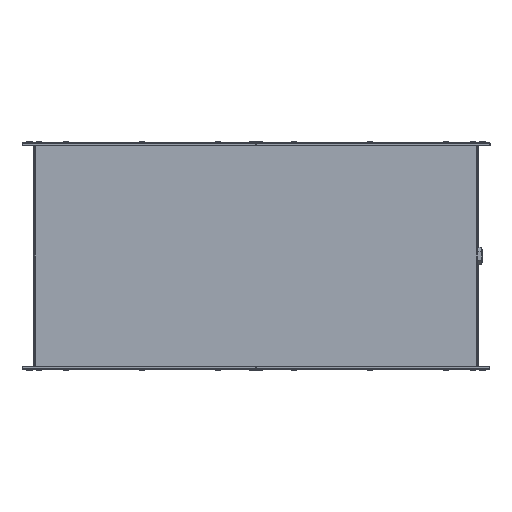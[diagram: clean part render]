
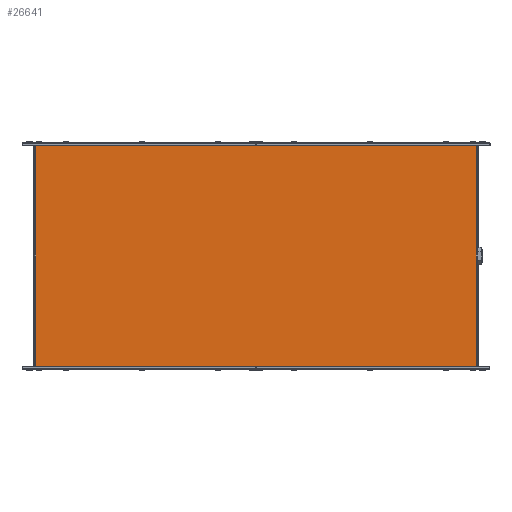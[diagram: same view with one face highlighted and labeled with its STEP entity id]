
A CAD part, front view. The second image highlights one B-rep face of the part: STEP entity #26641.
In plain terms, the highlighted planar face has unit normal (0, -1, 0).
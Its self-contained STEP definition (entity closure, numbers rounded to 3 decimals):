
#3066 = AXIS2_PLACEMENT_3D ( 'NONE', #31112, #31121, #31122 ) ;
#3339 = ORIENTED_EDGE ( 'NONE', *, *, #12150, .T. ) ;
#3340 = ORIENTED_EDGE ( 'NONE', *, *, #12181, .T. ) ;
#3343 = ORIENTED_EDGE ( 'NONE', *, *, #12123, .T. ) ;
#3345 = ORIENTED_EDGE ( 'NONE', *, *, #12187, .T. ) ;
#7400 = FACE_OUTER_BOUND ( 'NONE', #10755, .T. ) ;
#10755 = EDGE_LOOP ( 'NONE', ( #3345, #3340, #3343, #3339 ) ) ;
#12123 = EDGE_CURVE ( 'NONE', #24375, #29989, #32955, .T. ) ;
#12150 = EDGE_CURVE ( 'NONE', #29989, #24726, #32913, .T. ) ;
#12181 = EDGE_CURVE ( 'NONE', #24796, #24375, #32866, .T. ) ;
#12187 = EDGE_CURVE ( 'NONE', #24726, #24796, #32855, .T. ) ;
#20280 = CARTESIAN_POINT ( 'NONE',  ( -347.8, -0.8, 177. ) ) ;
#24375 = VERTEX_POINT ( 'NONE', #30090 ) ;
#24726 = VERTEX_POINT ( 'NONE', #30412 ) ;
#24796 = VERTEX_POINT ( 'NONE', #30450 ) ;
#26641 = ADVANCED_FACE ( 'NONE', ( #7400 ), #31119, .F. ) ;
#29989 = VERTEX_POINT ( 'NONE', #20280 ) ;
#30090 = CARTESIAN_POINT ( 'NONE',  ( 347.8, -0.8, 177. ) ) ;
#30412 = CARTESIAN_POINT ( 'NONE',  ( -347.8, -0.8, -177. ) ) ;
#30450 = CARTESIAN_POINT ( 'NONE',  ( 347.8, -0.8, -177. ) ) ;
#31112 = CARTESIAN_POINT ( 'NONE',  ( 0., -0.8, 0. ) ) ;
#31119 = PLANE ( 'NONE',  #3066 ) ;
#31121 = DIRECTION ( 'NONE',  ( 0., 1., 0. ) ) ;
#31122 = DIRECTION ( 'NONE',  ( 0., 0., 1. ) ) ;
#31220 = CARTESIAN_POINT ( 'NONE',  ( -347.8, -0.8, 179. ) ) ;
#31221 = DIRECTION ( 'NONE',  ( 0., 0., -1. ) ) ;
#31233 = DIRECTION ( 'NONE',  ( 1., 0., 0. ) ) ;
#31333 = CARTESIAN_POINT ( 'NONE',  ( -347.8, -0.8, -177. ) ) ;
#31430 = DIRECTION ( 'NONE',  ( -1., 0., 0. ) ) ;
#31481 = CARTESIAN_POINT ( 'NONE',  ( 347.8, -0.8, 177. ) ) ;
#31500 = DIRECTION ( 'NONE',  ( 0., 0., 1. ) ) ;
#31501 = CARTESIAN_POINT ( 'NONE',  ( 347.8, -0.8, -179. ) ) ;
#32854 = VECTOR ( 'NONE', #31233, 1000. ) ;
#32855 = LINE ( 'NONE', #31333, #32854 ) ;
#32863 = VECTOR ( 'NONE', #31500, 1000. ) ;
#32866 = LINE ( 'NONE', #31501, #32863 ) ;
#32911 = VECTOR ( 'NONE', #31221, 1000. ) ;
#32913 = LINE ( 'NONE', #31220, #32911 ) ;
#32950 = VECTOR ( 'NONE', #31430, 1000. ) ;
#32955 = LINE ( 'NONE', #31481, #32950 ) ;
